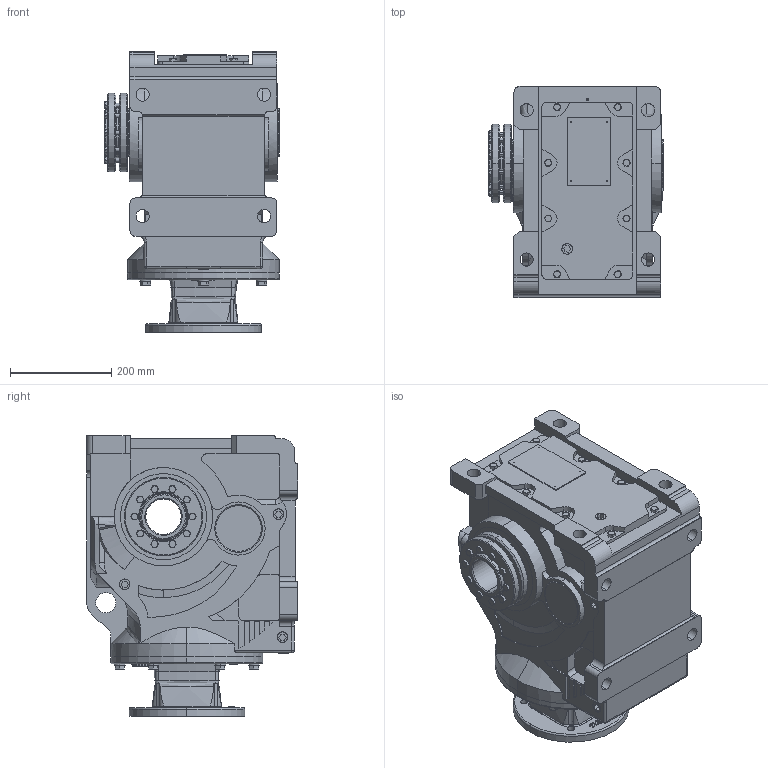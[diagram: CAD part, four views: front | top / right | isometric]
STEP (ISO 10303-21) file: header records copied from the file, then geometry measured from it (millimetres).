
FILE_DESCRIPTION (( 'STEP AP203' ), '1' );
FILE_NAME ('KHN97-213TC-B-POWER LOCK.STEP', '2020-11-25T03:05:34', ( 'Microsoft' ), ( 'Microsoft' ), 'SwSTEP 2.0', 'SolidWorks 2012', '' );
FILE_SCHEMA (( 'CONFIG_CONTROL_DESIGN' ));
Length unit declared in the file: millimetre
Products named in the file (1): KHN97-213TC-B-POWER LOCK
Bounding box: 345 x 417.5 x 554.5 mm (x, y, z)
Volume: 41501496.8 mm3; surface area: 1476947.2 mm2
Topology: 2 solids, 26 shells, 1779 faces, 4463 edges, 2828 vertices
Faces by surface type: plane 762, cylinder 490, cone 337, bspline 150, torus 38, sphere 2
Entity records: 64534 total; most frequent: CARTESIAN_POINT 22533, ORIENTED_EDGE 8822, DIRECTION 8481, EDGE_CURVE 4411, AXIS2_PLACEMENT_3D 3092, VERTEX_POINT 2828, VECTOR 2297, LINE 2297
